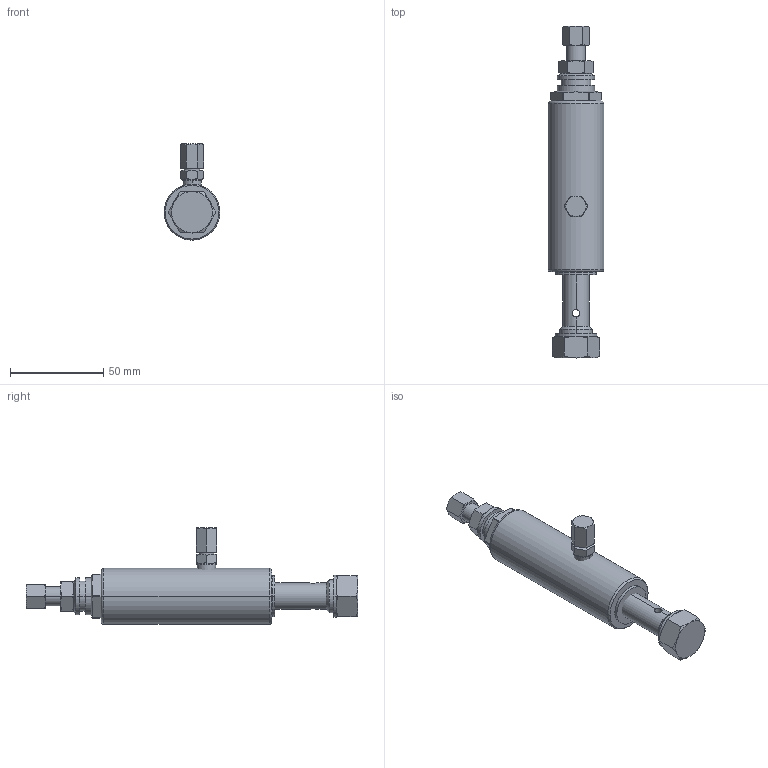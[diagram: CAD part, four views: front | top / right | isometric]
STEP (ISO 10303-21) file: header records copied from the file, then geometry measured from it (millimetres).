
FILE_DESCRIPTION((''),'2;1');
FILE_NAME('114909-EN-Y_PRT','2023-12-18T08:30:36',('qtmwp1'),(''),'CREO PARAMETRIC BY PTC INC, 2021072','CREO PARAMETRIC BY PTC INC, 2021072','');
FILE_SCHEMA(('CONFIG_CONTROL_DESIGN'));
Length unit declared in the file: inch
Products named in the file (1): 114909-EN-Y_PRT
Bounding box: 30 x 177.9 x 51.65 mm (x, y, z)
Surface area: 20242.6 mm2 (no closed solid volume)
Topology: 0 solids, 15 shells, 133 faces, 332 edges, 206 vertices
Faces by surface type: plane 49, cone 46, cylinder 34, torus 4
Entity records: 4567 total; most frequent: CARTESIAN_POINT 1564, ORIENTED_EDGE 604, DIRECTION 594, EDGE_CURVE 330, AXIS2_PLACEMENT_3D 243, VERTEX_POINT 206, EDGE_LOOP 133, FACE_OUTER_BOUND 133
